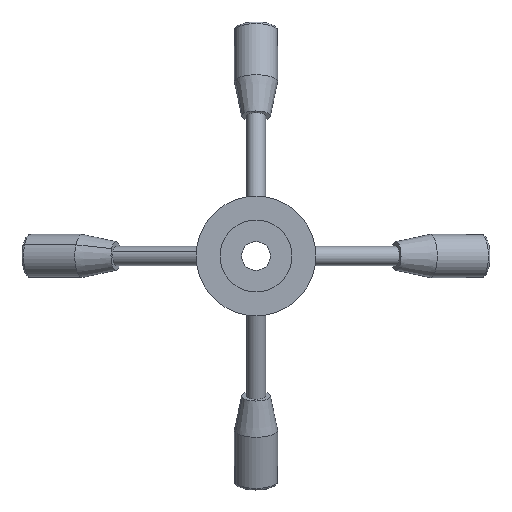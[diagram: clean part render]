
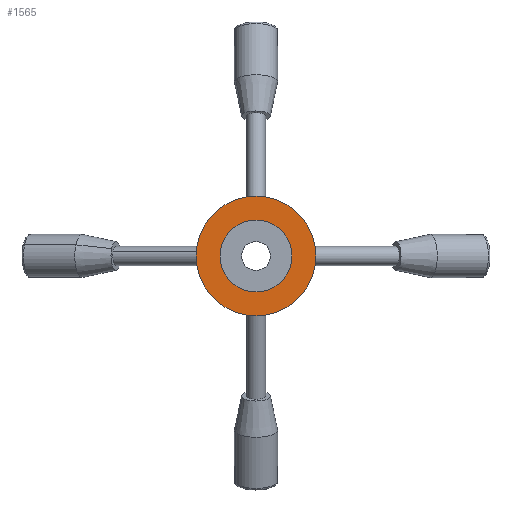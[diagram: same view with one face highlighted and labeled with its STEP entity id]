
A CAD part, front view. The second image highlights one B-rep face of the part: STEP entity #1565.
In plain terms, the highlighted planar face has unit normal (0, -1, 0).
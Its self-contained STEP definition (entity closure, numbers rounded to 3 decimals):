
#12 = VERTEX_POINT ( 'NONE', #1462 ) ;
#38 = EDGE_LOOP ( 'NONE', ( #854, #894 ) ) ;
#60 = CARTESIAN_POINT ( 'NONE',  ( 0., 0., 0. ) ) ;
#78 = DIRECTION ( 'NONE',  ( 0., 1., 0. ) ) ;
#80 = EDGE_CURVE ( 'NONE', #1523, #973, #540, .T. ) ;
#122 = ORIENTED_EDGE ( 'NONE', *, *, #1306, .F. ) ;
#185 = DIRECTION ( 'NONE',  ( 0., 0., 1. ) ) ;
#219 = DIRECTION ( 'NONE',  ( 0., 1., 0. ) ) ;
#252 = PLANE ( 'NONE',  #413 ) ;
#286 = ORIENTED_EDGE ( 'NONE', *, *, #800, .F. ) ;
#297 = CARTESIAN_POINT ( 'NONE',  ( 0., 0., -15. ) ) ;
#342 = CARTESIAN_POINT ( 'NONE',  ( 0., 0., 0. ) ) ;
#367 = AXIS2_PLACEMENT_3D ( 'NONE', #2010, #580, #1384 ) ;
#384 = CARTESIAN_POINT ( 'NONE',  ( 0., 0., 0. ) ) ;
#390 = FACE_BOUND ( 'NONE', #2031, .T. ) ;
#413 = AXIS2_PLACEMENT_3D ( 'NONE', #890, #78, #1517 ) ;
#424 = FACE_OUTER_BOUND ( 'NONE', #38, .T. ) ;
#455 = VERTEX_POINT ( 'NONE', #297 ) ;
#476 = CARTESIAN_POINT ( 'NONE',  ( 0., 0., -25. ) ) ;
#540 = CIRCLE ( 'NONE', #1481, 25. ) ;
#580 = DIRECTION ( 'NONE',  ( 0., -1., 0. ) ) ;
#708 = CIRCLE ( 'NONE', #1464, 15. ) ;
#800 = EDGE_CURVE ( 'NONE', #455, #12, #1499, .T. ) ;
#854 = ORIENTED_EDGE ( 'NONE', *, *, #2045, .F. ) ;
#869 = DIRECTION ( 'NONE',  ( 0., 0., 1. ) ) ;
#890 = CARTESIAN_POINT ( 'NONE',  ( 0., 0., 0. ) ) ;
#894 = ORIENTED_EDGE ( 'NONE', *, *, #80, .F. ) ;
#907 = AXIS2_PLACEMENT_3D ( 'NONE', #342, #976, #185 ) ;
#973 = VERTEX_POINT ( 'NONE', #476 ) ;
#976 = DIRECTION ( 'NONE',  ( 0., 1., 0. ) ) ;
#1014 = DIRECTION ( 'NONE',  ( 0., -1., 0. ) ) ;
#1191 = CARTESIAN_POINT ( 'NONE',  ( 0., 0., 25. ) ) ;
#1306 = EDGE_CURVE ( 'NONE', #12, #455, #708, .T. ) ;
#1323 = CIRCLE ( 'NONE', #907, 25. ) ;
#1384 = DIRECTION ( 'NONE',  ( 0., 0., 1. ) ) ;
#1462 = CARTESIAN_POINT ( 'NONE',  ( 0., 0., 15. ) ) ;
#1464 = AXIS2_PLACEMENT_3D ( 'NONE', #60, #1014, #1972 ) ;
#1481 = AXIS2_PLACEMENT_3D ( 'NONE', #384, #219, #869 ) ;
#1499 = CIRCLE ( 'NONE', #367, 15. ) ;
#1517 = DIRECTION ( 'NONE',  ( 0., 0., 1. ) ) ;
#1523 = VERTEX_POINT ( 'NONE', #1191 ) ;
#1565 = ADVANCED_FACE ( 'NONE', ( #424, #390 ), #252, .F. ) ;
#1972 = DIRECTION ( 'NONE',  ( 0., 0., 1. ) ) ;
#2010 = CARTESIAN_POINT ( 'NONE',  ( 0., 0., 0. ) ) ;
#2031 = EDGE_LOOP ( 'NONE', ( #122, #286 ) ) ;
#2045 = EDGE_CURVE ( 'NONE', #973, #1523, #1323, .T. ) ;
